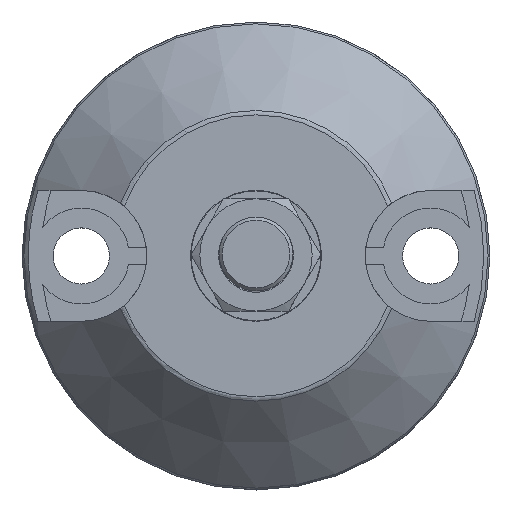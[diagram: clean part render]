
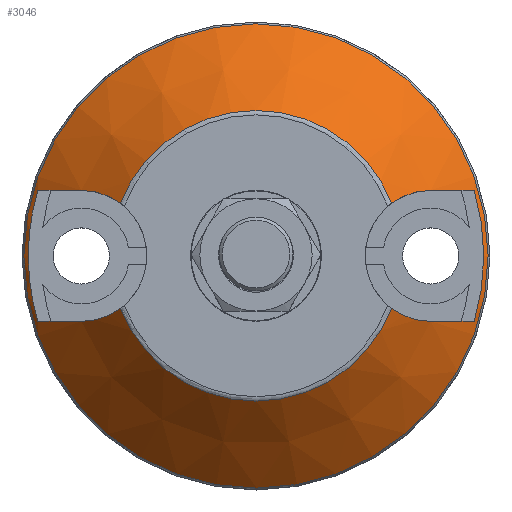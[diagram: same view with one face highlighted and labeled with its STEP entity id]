
A CAD part, top view. The second image highlights one B-rep face of the part: STEP entity #3046.
In plain terms, the highlighted conical face has half-angle 45 degrees and reference radius 30.25 mm.
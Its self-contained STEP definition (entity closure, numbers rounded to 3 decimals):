
#53=B_SPLINE_CURVE_WITH_KNOTS('',3,(#5234,#5235,#5236,#5237,#5238,#5239,
#5240),.UNSPECIFIED.,.F.,.F.,(4,3,4),(-0.361,0.,0.542),
 .UNSPECIFIED.);
#54=B_SPLINE_CURVE_WITH_KNOTS('',3,(#5247,#5248,#5249,#5250,#5251,#5252),
 .UNSPECIFIED.,.F.,.F.,(4,2,4),(-3.48,-2.938,-2.578),
 .UNSPECIFIED.);
#55=B_SPLINE_CURVE_WITH_KNOTS('',3,(#5261,#5262,#5263,#5264,#5265,#5266),
 .UNSPECIFIED.,.F.,.F.,(4,1,1,4),(0.,0.333,0.667,1.),
 .UNSPECIFIED.);
#56=B_SPLINE_CURVE_WITH_KNOTS('',3,(#5270,#5271,#5272,#5273,#5274,#5275),
 .UNSPECIFIED.,.F.,.F.,(4,2,4),(-3.48,-2.938,-2.578),
 .UNSPECIFIED.);
#57=B_SPLINE_CURVE_WITH_KNOTS('',3,(#5277,#5278,#5279,#5280,#5281,#5282),
 .UNSPECIFIED.,.F.,.F.,(4,1,1,4),(0.,0.333,0.667,1.),
 .UNSPECIFIED.);
#58=B_SPLINE_CURVE_WITH_KNOTS('',3,(#5286,#5287,#5288,#5289,#5290,#5291),
 .UNSPECIFIED.,.F.,.F.,(4,1,1,4),(0.,0.333,0.667,1.),
 .UNSPECIFIED.);
#59=B_SPLINE_CURVE_WITH_KNOTS('',3,(#5292,#5293,#5294,#5295,#5296,#5297,
#5298),.UNSPECIFIED.,.F.,.F.,(4,3,4),(-0.361,0.,0.542),
 .UNSPECIFIED.);
#60=B_SPLINE_CURVE_WITH_KNOTS('',3,(#5300,#5301,#5302,#5303,#5304,#5305),
 .UNSPECIFIED.,.F.,.F.,(4,1,1,4),(0.,0.333,0.667,1.),
 .UNSPECIFIED.);
#297=CONICAL_SURFACE('',#3332,30.25,0.785);
#364=FACE_OUTER_BOUND('',#558,.T.);
#558=EDGE_LOOP('',(#2228,#2229,#2230,#2231,#2232,#2233,#2234,#2235,#2236,
#2237,#2238,#2239,#2240,#2241,#2242,#2243,#2244));
#738=LINE('',#5258,#919);
#919=VECTOR('',#3833,30.25);
#1109=CIRCLE('',#3329,23.293);
#1111=CIRCLE('',#3333,37.207);
#1112=CIRCLE('',#3334,36.5);
#1113=CIRCLE('',#3335,23.293);
#1114=CIRCLE('',#3336,36.5);
#1115=CIRCLE('',#3337,36.5);
#1116=CIRCLE('',#3338,37.207);
#1329=VERTEX_POINT('',#5204);
#1330=VERTEX_POINT('',#5213);
#1331=VERTEX_POINT('',#5224);
#1332=VERTEX_POINT('',#5233);
#1335=VERTEX_POINT('',#5245);
#1336=VERTEX_POINT('',#5254);
#1337=VERTEX_POINT('',#5255);
#1338=VERTEX_POINT('',#5257);
#1339=VERTEX_POINT('',#5259);
#1340=VERTEX_POINT('',#5267);
#1341=VERTEX_POINT('',#5269);
#1342=VERTEX_POINT('',#5276);
#1343=VERTEX_POINT('',#5283);
#1344=VERTEX_POINT('',#5285);
#1345=VERTEX_POINT('',#5299);
#1666=EDGE_CURVE('',#1330,#1329,#1109,.T.);
#1669=EDGE_CURVE('',#1331,#1332,#53,.T.);
#1673=EDGE_CURVE('',#1335,#1329,#54,.T.);
#1674=EDGE_CURVE('',#1336,#1337,#1111,.T.);
#1675=EDGE_CURVE('',#1336,#1338,#738,.T.);
#1676=EDGE_CURVE('',#1339,#1338,#1112,.T.);
#1677=EDGE_CURVE('',#1332,#1339,#55,.T.);
#1678=EDGE_CURVE('',#1331,#1340,#1113,.T.);
#1679=EDGE_CURVE('',#1341,#1340,#56,.T.);
#1680=EDGE_CURVE('',#1342,#1341,#57,.T.);
#1681=EDGE_CURVE('',#1343,#1342,#1114,.T.);
#1682=EDGE_CURVE('',#1344,#1343,#58,.T.);
#1683=EDGE_CURVE('',#1330,#1344,#59,.T.);
#1684=EDGE_CURVE('',#1345,#1335,#60,.T.);
#1685=EDGE_CURVE('',#1338,#1345,#1115,.T.);
#1686=EDGE_CURVE('',#1337,#1336,#1116,.T.);
#2228=ORIENTED_EDGE('',*,*,#1674,.F.);
#2229=ORIENTED_EDGE('',*,*,#1675,.T.);
#2230=ORIENTED_EDGE('',*,*,#1676,.F.);
#2231=ORIENTED_EDGE('',*,*,#1677,.F.);
#2232=ORIENTED_EDGE('',*,*,#1669,.F.);
#2233=ORIENTED_EDGE('',*,*,#1678,.T.);
#2234=ORIENTED_EDGE('',*,*,#1679,.F.);
#2235=ORIENTED_EDGE('',*,*,#1680,.F.);
#2236=ORIENTED_EDGE('',*,*,#1681,.F.);
#2237=ORIENTED_EDGE('',*,*,#1682,.F.);
#2238=ORIENTED_EDGE('',*,*,#1683,.F.);
#2239=ORIENTED_EDGE('',*,*,#1666,.T.);
#2240=ORIENTED_EDGE('',*,*,#1673,.F.);
#2241=ORIENTED_EDGE('',*,*,#1684,.F.);
#2242=ORIENTED_EDGE('',*,*,#1685,.F.);
#2243=ORIENTED_EDGE('',*,*,#1675,.F.);
#2244=ORIENTED_EDGE('',*,*,#1686,.F.);
#3046=ADVANCED_FACE('',(#364),#297,.T.);
#3329=AXIS2_PLACEMENT_3D('',#5214,#3821,#3822);
#3332=AXIS2_PLACEMENT_3D('',#5253,#3829,#3830);
#3333=AXIS2_PLACEMENT_3D('',#5256,#3831,#3832);
#3334=AXIS2_PLACEMENT_3D('',#5260,#3834,#3835);
#3335=AXIS2_PLACEMENT_3D('',#5268,#3836,#3837);
#3336=AXIS2_PLACEMENT_3D('',#5284,#3838,#3839);
#3337=AXIS2_PLACEMENT_3D('',#5306,#3840,#3841);
#3338=AXIS2_PLACEMENT_3D('',#5307,#3842,#3843);
#3821=DIRECTION('center_axis',(0.,0.,
-1.));
#3822=DIRECTION('ref_axis',(0.932,-0.361,0.));
#3829=DIRECTION('center_axis',(0.,0.,
-1.));
#3830=DIRECTION('ref_axis',(1.,0.,0.));
#3831=DIRECTION('center_axis',(0.,0.,
-1.));
#3832=DIRECTION('ref_axis',(1.,0.,0.));
#3833=DIRECTION('',(0.707,0.,0.707));
#3834=DIRECTION('center_axis',(0.,0.,
1.));
#3835=DIRECTION('ref_axis',(-0.958,0.288,0.));
#3836=DIRECTION('center_axis',(0.,0.,
-1.));
#3837=DIRECTION('ref_axis',(-0.932,0.361,0.));
#3838=DIRECTION('center_axis',(0.,0.,
1.));
#3839=DIRECTION('ref_axis',(0.958,-0.288,0.));
#3840=DIRECTION('center_axis',(0.,0.,
1.));
#3841=DIRECTION('ref_axis',(-0.958,0.288,0.));
#3842=DIRECTION('center_axis',(0.,0.,
-1.));
#3843=DIRECTION('ref_axis',(1.,0.,0.));
#5204=CARTESIAN_POINT('',(-21.72,-8.415,25.707));
#5213=CARTESIAN_POINT('',(21.72,-8.415,25.707));
#5214=CARTESIAN_POINT('Origin',(0.,0.,
25.707));
#5224=CARTESIAN_POINT('',(-21.72,8.415,25.707));
#5233=CARTESIAN_POINT('',(-28.,10.5,19.096));
#5234=CARTESIAN_POINT('Ctrl Pts',(-21.72,8.415,25.707));
#5235=CARTESIAN_POINT('Ctrl Pts',(-22.47,8.974,24.806));
#5236=CARTESIAN_POINT('Ctrl Pts',(-23.274,9.415,23.893));
#5237=CARTESIAN_POINT('Ctrl Pts',(-24.063,9.734,23.043));
#5238=CARTESIAN_POINT('Ctrl Pts',(-25.246,10.212,21.767));
#5239=CARTESIAN_POINT('Ctrl Pts',(-26.598,10.5,20.409));
#5240=CARTESIAN_POINT('Ctrl Pts',(-28.,10.5,19.096));
#5245=CARTESIAN_POINT('',(-28.,-10.5,19.096));
#5247=CARTESIAN_POINT('Ctrl Pts',(-28.,-10.5,19.096));
#5248=CARTESIAN_POINT('Ctrl Pts',(-26.598,-10.5,20.409));
#5249=CARTESIAN_POINT('Ctrl Pts',(-25.246,-10.212,21.767));
#5250=CARTESIAN_POINT('Ctrl Pts',(-23.274,-9.415,23.893));
#5251=CARTESIAN_POINT('Ctrl Pts',(-22.47,-8.974,24.806));
#5252=CARTESIAN_POINT('Ctrl Pts',(-21.72,-8.415,25.707));
#5253=CARTESIAN_POINT('Origin',(0.,0.,
18.75));
#5254=CARTESIAN_POINT('',(-37.207,0.,11.793));
#5255=CARTESIAN_POINT('',(-37.207,-0.158,11.793));
#5256=CARTESIAN_POINT('Origin',(0.,0.,
11.793));
#5257=CARTESIAN_POINT('',(-36.5,0.,12.5));
#5258=CARTESIAN_POINT('',(-30.25,0.,18.75));
#5259=CARTESIAN_POINT('',(-34.957,10.5,12.5));
#5260=CARTESIAN_POINT('Origin',(0.,0.,
12.5));
#5261=CARTESIAN_POINT('Ctrl Pts',(-28.,10.5,19.096));
#5262=CARTESIAN_POINT('Ctrl Pts',(-28.717,10.5,18.425));
#5263=CARTESIAN_POINT('Ctrl Pts',(-30.188,10.5,17.041));
#5264=CARTESIAN_POINT('Ctrl Pts',(-32.503,10.5,14.846));
#5265=CARTESIAN_POINT('Ctrl Pts',(-34.126,10.5,13.296));
#5266=CARTESIAN_POINT('Ctrl Pts',(-34.957,10.5,12.5));
#5267=CARTESIAN_POINT('',(21.72,8.415,25.707));
#5268=CARTESIAN_POINT('Origin',(0.,0.,
25.707));
#5269=CARTESIAN_POINT('',(28.,10.5,19.096));
#5270=CARTESIAN_POINT('Ctrl Pts',(28.,10.5,19.096));
#5271=CARTESIAN_POINT('Ctrl Pts',(26.598,10.5,20.409));
#5272=CARTESIAN_POINT('Ctrl Pts',(25.246,10.212,21.767));
#5273=CARTESIAN_POINT('Ctrl Pts',(23.274,9.415,23.893));
#5274=CARTESIAN_POINT('Ctrl Pts',(22.47,8.974,24.806));
#5275=CARTESIAN_POINT('Ctrl Pts',(21.72,8.415,25.707));
#5276=CARTESIAN_POINT('',(34.957,10.5,12.5));
#5277=CARTESIAN_POINT('Ctrl Pts',(34.957,10.5,12.5));
#5278=CARTESIAN_POINT('Ctrl Pts',(34.127,10.5,13.295));
#5279=CARTESIAN_POINT('Ctrl Pts',(32.505,10.5,14.843));
#5280=CARTESIAN_POINT('Ctrl Pts',(30.19,10.5,17.039));
#5281=CARTESIAN_POINT('Ctrl Pts',(28.718,10.5,18.424));
#5282=CARTESIAN_POINT('Ctrl Pts',(28.,10.5,19.096));
#5283=CARTESIAN_POINT('',(34.957,-10.5,12.5));
#5284=CARTESIAN_POINT('Origin',(0.,0.,
12.5));
#5285=CARTESIAN_POINT('',(28.,-10.5,19.096));
#5286=CARTESIAN_POINT('Ctrl Pts',(28.,-10.5,19.096));
#5287=CARTESIAN_POINT('Ctrl Pts',(28.717,-10.5,18.424));
#5288=CARTESIAN_POINT('Ctrl Pts',(30.189,-10.5,17.04));
#5289=CARTESIAN_POINT('Ctrl Pts',(32.503,-10.5,14.845));
#5290=CARTESIAN_POINT('Ctrl Pts',(34.126,-10.5,13.296));
#5291=CARTESIAN_POINT('Ctrl Pts',(34.957,-10.5,12.5));
#5292=CARTESIAN_POINT('Ctrl Pts',(21.72,-8.415,25.707));
#5293=CARTESIAN_POINT('Ctrl Pts',(22.47,-8.974,24.806));
#5294=CARTESIAN_POINT('Ctrl Pts',(23.274,-9.415,23.893));
#5295=CARTESIAN_POINT('Ctrl Pts',(24.063,-9.734,23.043));
#5296=CARTESIAN_POINT('Ctrl Pts',(25.246,-10.212,21.767));
#5297=CARTESIAN_POINT('Ctrl Pts',(26.598,-10.5,20.409));
#5298=CARTESIAN_POINT('Ctrl Pts',(28.,-10.5,19.096));
#5299=CARTESIAN_POINT('',(-34.957,-10.5,12.5));
#5300=CARTESIAN_POINT('Ctrl Pts',(-34.957,-10.5,12.5));
#5301=CARTESIAN_POINT('Ctrl Pts',(-34.126,-10.5,13.296));
#5302=CARTESIAN_POINT('Ctrl Pts',(-32.503,-10.5,14.845));
#5303=CARTESIAN_POINT('Ctrl Pts',(-30.189,-10.5,17.04));
#5304=CARTESIAN_POINT('Ctrl Pts',(-28.717,-10.5,18.424));
#5305=CARTESIAN_POINT('Ctrl Pts',(-28.,-10.5,19.096));
#5306=CARTESIAN_POINT('Origin',(0.,0.,
12.5));
#5307=CARTESIAN_POINT('Origin',(0.,0.,
11.793));
